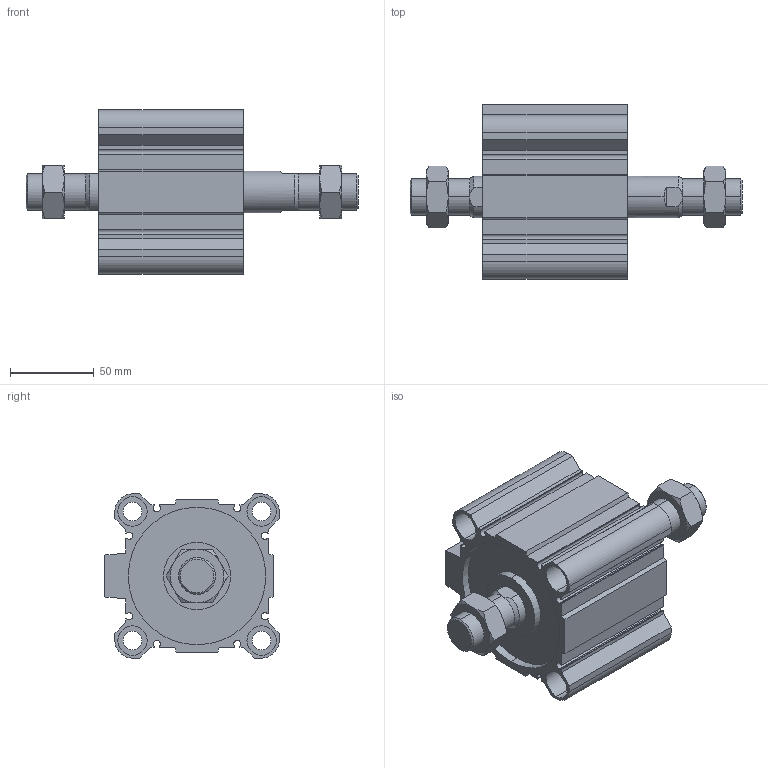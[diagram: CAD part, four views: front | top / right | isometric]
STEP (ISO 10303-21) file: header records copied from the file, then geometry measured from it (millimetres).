
FILE_DESCRIPTION (( 'STEP AP203' ), '1' );
FILE_NAME ('CCMB80-25M-P.STEP', '2020-08-10T11:53:41', ( '' ), ( '' ), 'SwSTEP 2.0', 'SolidWorks 2019', '' );
FILE_SCHEMA (( 'CONFIG_CONTROL_DESIGN' ));
Length unit declared in the file: millimetre
Products named in the file (1): CCMB80-25M-P
Bounding box: 198 x 104 x 98 mm (x, y, z)
Volume: 573583.6 mm3; surface area: 142022.3 mm2
Topology: 4 solids, 4 shells, 228 faces, 558 edges, 356 vertices
Faces by surface type: plane 106, cylinder 78, cone 44
Entity records: 7569 total; most frequent: CARTESIAN_POINT 2055, DIRECTION 1148, ORIENTED_EDGE 1116, EDGE_CURVE 558, AXIS2_PLACEMENT_3D 425, VERTEX_POINT 356, VECTOR 298, LINE 298
